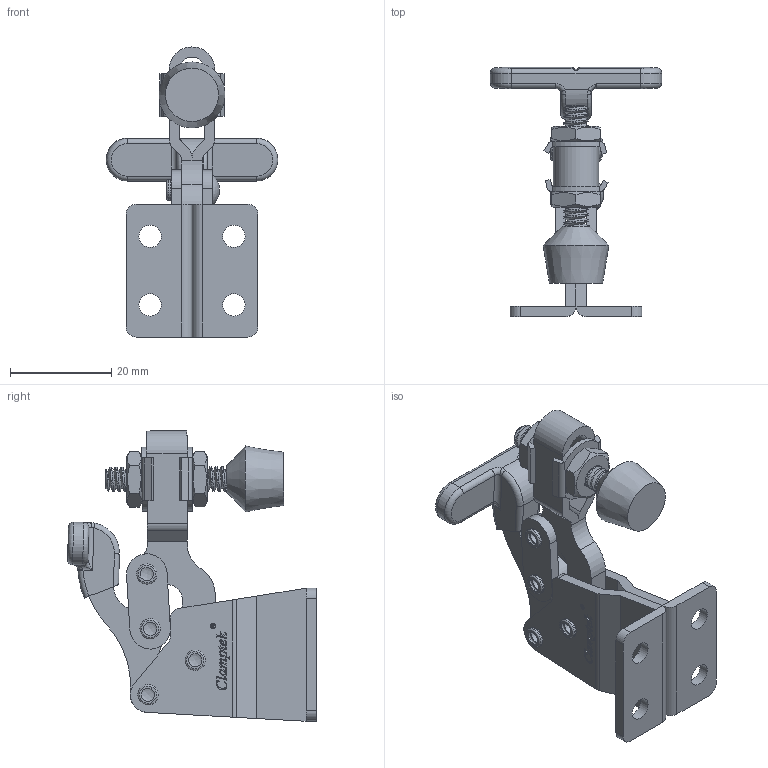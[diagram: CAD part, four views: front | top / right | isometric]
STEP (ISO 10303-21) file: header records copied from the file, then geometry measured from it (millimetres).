
FILE_DESCRIPTION(/* description */ ('STEP AP203'),/* implementation_level */ '2;1');
FILE_NAME(/* name */ 'D:\Vault_2016\Projekty\Clamptek\STRONA\Vertical toggle clamp\CH-13005-HB\CH-13005-HB_ZAMKNIETY.stp',/* time_stamp */ '2019-01-16T15:10:56+01:00',/* author */ ('Łukasz'),/* organization */ ('Î¢ÈíÖÐ¹ú'),/* preprocessor_version */ 'ST-DEVELOPER v17.2',/* originating_system */ 'Autodesk Inventor 2019',/* authorisation */ '');
FILE_SCHEMA (('AUTOMOTIVE_DESIGN { 1 0 10303 214 3 1 1 }'));
Products named in the file (9): CH-13005-HB; CH-13005-02 U-BAR; CH-13005-HB-01 FLANGED BASE; CH-FW-100; CH-FC-10138 Nut; CH-13005-05 ; CH-FC-10138 SPINDLE SUPPLIED; CH-13005-03 T-HANDLE; CH-13005-04 CONNECTING-PLATE
Assembly tree (14 placements, depth 2):
  CH-13005-HB
    CH-FW-100  x2
    CH-13005-04 CONNECTING-PLATE  x2
    CH-13005-05   x4
    CH-13005-02 U-BAR
    CH-FC-10138 Nut  x2
    CH-13005-HB-01 FLANGED BASE
    CH-FC-10138 SPINDLE SUPPLIED
    CH-13005-03 T-HANDLE
Bounding box: 33.8 x 49.07 x 57.2 mm (x, y, z)
Volume: 10690.7 mm3; surface area: 11858 mm2
Topology: 15 solids, 16 shells, 653 faces, 1785 edges, 1198 vertices
Faces by surface type: plane 286, bspline 205, cylinder 127, torus 19, cone 12, sphere 4
Full cylindrical faces by diameter (mm): 0.848 x1, 0.99 x1, 3 x16, 3.8 x4, 4 x4, 4.4 x4, 4.8 x19, 4.9 x2, 9.526 x1
Entity records: 37641 total; most frequent: CARTESIAN_POINT 23554, ORIENTED_EDGE 3214, DIRECTION 2187, EDGE_CURVE 1607, VERTEX_POINT 1075, LINE 887, VECTOR 887, EDGE_LOOP 654
